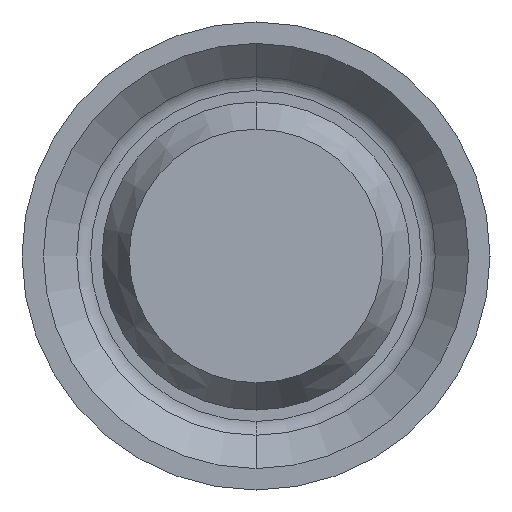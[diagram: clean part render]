
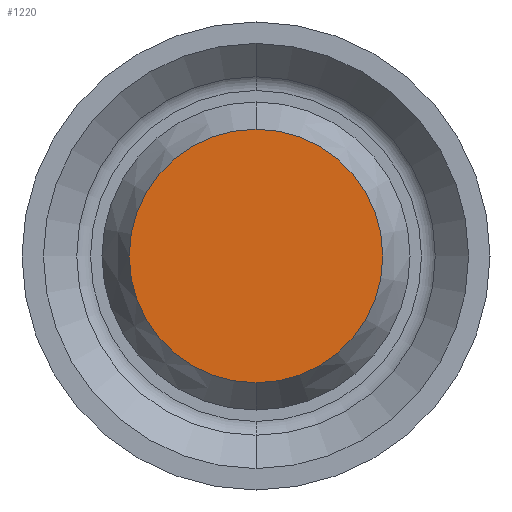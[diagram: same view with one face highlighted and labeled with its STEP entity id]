
A CAD part, front view. The second image highlights one B-rep face of the part: STEP entity #1220.
In plain terms, the highlighted planar face has unit normal (0, -1, 0).
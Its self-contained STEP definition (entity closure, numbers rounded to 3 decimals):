
#67 = ORIENTED_EDGE ( 'NONE', *, *, #1635, .T. ) ;
#174 = CIRCLE ( 'NONE', #1577, 3.25 ) ;
#245 = CARTESIAN_POINT ( 'NONE',  ( 0., 0., 3.25 ) ) ;
#256 = DIRECTION ( 'NONE',  ( 0., 0., -1. ) ) ;
#470 = CARTESIAN_POINT ( 'NONE',  ( 0., 0., 0. ) ) ;
#707 = AXIS2_PLACEMENT_3D ( 'NONE', #470, #1535, #256 ) ;
#773 = VERTEX_POINT ( 'NONE', #1825 ) ;
#931 = DIRECTION ( 'NONE',  ( 0., 0., -1. ) ) ;
#950 = DIRECTION ( 'NONE',  ( 0., -1., 0. ) ) ;
#997 = EDGE_LOOP ( 'NONE', ( #1051, #67 ) ) ;
#1051 = ORIENTED_EDGE ( 'NONE', *, *, #1870, .T. ) ;
#1068 = PLANE ( 'NONE',  #1486 ) ;
#1200 = CARTESIAN_POINT ( 'NONE',  ( 0., 0., 0. ) ) ;
#1220 = ADVANCED_FACE ( 'NONE', ( #1700 ), #1068, .T. ) ;
#1279 = DIRECTION ( 'NONE',  ( 0., -1., 0. ) ) ;
#1364 = CARTESIAN_POINT ( 'NONE',  ( 0., 0., 0. ) ) ;
#1486 = AXIS2_PLACEMENT_3D ( 'NONE', #1364, #950, #931 ) ;
#1535 = DIRECTION ( 'NONE',  ( 0., -1., 0. ) ) ;
#1537 = CIRCLE ( 'NONE', #707, 3.25 ) ;
#1577 = AXIS2_PLACEMENT_3D ( 'NONE', #1200, #1279, #1626 ) ;
#1626 = DIRECTION ( 'NONE',  ( 0., 0., -1. ) ) ;
#1635 = EDGE_CURVE ( 'NONE', #773, #1832, #1537, .T. ) ;
#1700 = FACE_OUTER_BOUND ( 'NONE', #997, .T. ) ;
#1825 = CARTESIAN_POINT ( 'NONE',  ( 0., 0., -3.25 ) ) ;
#1832 = VERTEX_POINT ( 'NONE', #245 ) ;
#1870 = EDGE_CURVE ( 'NONE', #1832, #773, #174, .T. ) ;
